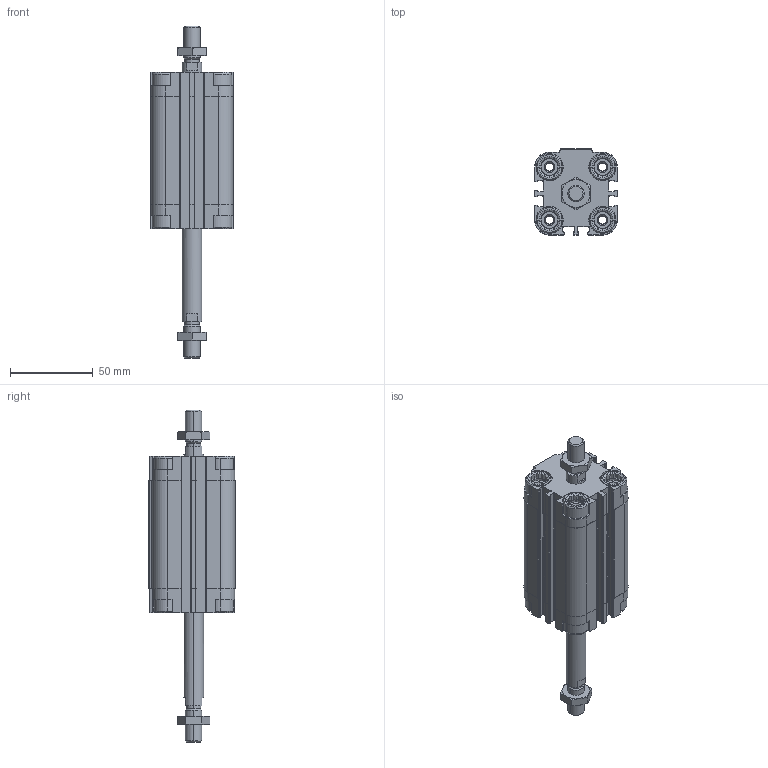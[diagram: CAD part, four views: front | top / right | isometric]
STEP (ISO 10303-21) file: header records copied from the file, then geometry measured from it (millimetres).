
FILE_DESCRIPTION (( 'STEP AP203' ), '1' );
FILE_NAME ('CDVU32-50M-P.STEP', '2020-07-21T15:14:36', ( '' ), ( '' ), 'SwSTEP 2.0', 'SolidWorks 2019', '' );
FILE_SCHEMA (( 'CONFIG_CONTROL_DESIGN' ));
Length unit declared in the file: millimetre
Products named in the file (1): CDVU32-50M-P
Bounding box: 50 x 52 x 200.5 mm (x, y, z)
Volume: 170742 mm3; surface area: 61219.3 mm2
Topology: 4 solids, 4 shells, 758 faces, 2004 edges, 1290 vertices
Faces by surface type: plane 438, cylinder 240, cone 80
Entity records: 24115 total; most frequent: CARTESIAN_POINT 5193, ORIENTED_EDGE 4000, DIRECTION 3862, EDGE_CURVE 2000, AXIS2_PLACEMENT_3D 1319, VERTEX_POINT 1290, LINE 1224, VECTOR 1224
